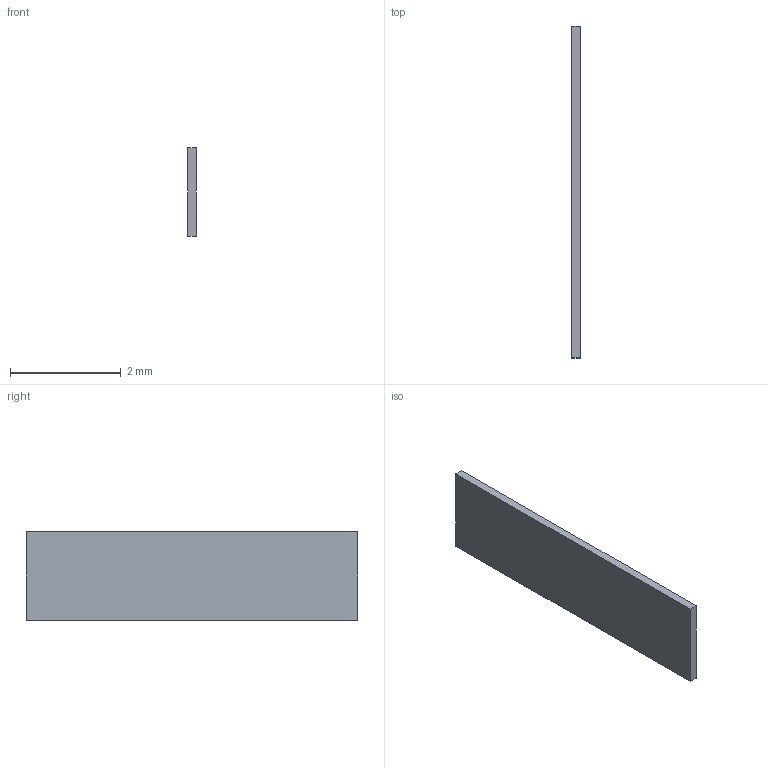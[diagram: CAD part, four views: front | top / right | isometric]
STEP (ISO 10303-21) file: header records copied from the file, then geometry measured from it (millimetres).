
FILE_DESCRIPTION(/* description */ (''),/* implementation_level */ '2;1');
FILE_NAME(/* name */ 'C27_R2_Rim_Grip_Pad_Left_Upper.step',/* time_stamp */ '2026-09-10T17:49:38-07:00',/* author */ (''),/* organization */ (''),/* preprocessor_version */ 'ST-DEVELOPER v20.1',/* originating_system */ 'Autodesk Translation Framework v15.8.0.0',/* authorisation */ '');
FILE_SCHEMA (('AUTOMOTIVE_DESIGN { 1 0 10303 214 3 1 1 }'));
Length unit declared in the file: millimetre
Products named in the file (1): 2026-09-10-17-49-38-680
Bounding box: 0.15 x 6 x 1.6 mm (x, y, z)
Volume: 1.4 mm3; surface area: 21.5 mm2
Topology: 1 solids, 1 shells, 6 faces, 12 edges, 8 vertices
Faces by surface type: plane 6
Entity records: 189 total; most frequent: CARTESIAN_POINT 27, DIRECTION 26, ORIENTED_EDGE 24, LINE 12, VECTOR 12, EDGE_CURVE 12, VERTEX_POINT 8, AXIS2_PLACEMENT_3D 7
